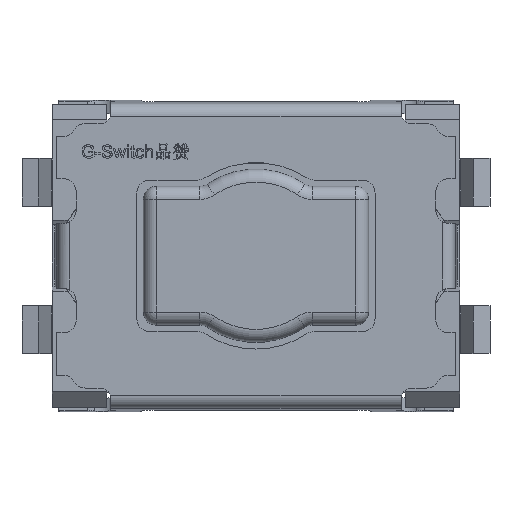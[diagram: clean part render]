
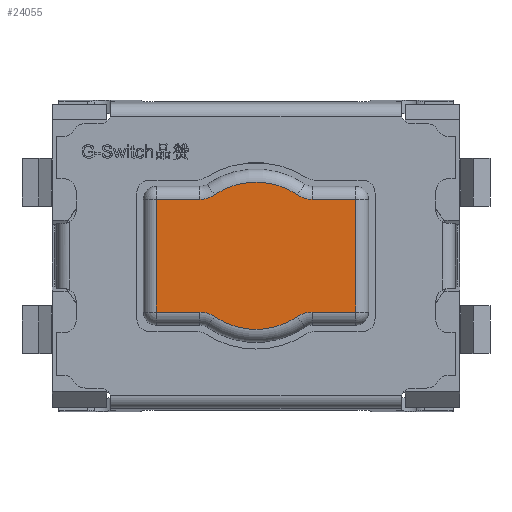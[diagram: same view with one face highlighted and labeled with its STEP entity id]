
A CAD part, top view. The second image highlights one B-rep face of the part: STEP entity #24055.
In plain terms, the highlighted planar face has unit normal (0, 0, 1).
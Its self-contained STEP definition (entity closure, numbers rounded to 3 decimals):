
#1377 = DIRECTION ( 'NONE',  ( 1., 0., 0. ) ) ;
#1526 = DIRECTION ( 'NONE',  ( 0., 0., 1. ) ) ;
#1781 = CARTESIAN_POINT ( 'NONE',  ( 977.92, 796.79, 1. ) ) ;
#1808 = CIRCLE ( 'NONE', #16150, 0.3 ) ;
#2281 = VECTOR ( 'NONE', #2581, 1000. ) ;
#2443 = VERTEX_POINT ( 'NONE', #10665 ) ;
#2581 = DIRECTION ( 'NONE',  ( 1., 0., 0. ) ) ;
#2994 = CIRCLE ( 'NONE', #22262, 0.3 ) ;
#3170 = CARTESIAN_POINT ( 'NONE',  ( 977.751, 796.737, 1. ) ) ;
#3252 = EDGE_CURVE ( 'NONE', #19916, #9051, #9254, .T. ) ;
#3416 = LINE ( 'NONE', #13038, #10738 ) ;
#3738 = EDGE_CURVE ( 'NONE', #17424, #7193, #1808, .T. ) ;
#4107 = CARTESIAN_POINT ( 'NONE',  ( 977.249, 795.437, 1. ) ) ;
#5039 = VERTEX_POINT ( 'NONE', #14301 ) ;
#5555 = AXIS2_PLACEMENT_3D ( 'NONE', #7544, #1526, #15370 ) ;
#5562 = DIRECTION ( 'NONE',  ( 0., 0., 1. ) ) ;
#5604 = AXIS2_PLACEMENT_3D ( 'NONE', #7269, #14846, #20990 ) ;
#5953 = LINE ( 'NONE', #17122, #19619 ) ;
#6273 = EDGE_CURVE ( 'NONE', #16127, #24001, #20419, .T. ) ;
#6338 = VECTOR ( 'NONE', #17702, 1000. ) ;
#6386 = CARTESIAN_POINT ( 'NONE',  ( 978.399, 796.087, 1. ) ) ;
#6680 = ORIENTED_EDGE ( 'NONE', *, *, #7052, .T. ) ;
#7052 = EDGE_CURVE ( 'NONE', #13191, #7193, #17972, .T. ) ;
#7127 = CARTESIAN_POINT ( 'NONE',  ( 978.878, 796.79, 1. ) ) ;
#7192 = VECTOR ( 'NONE', #24992, 1000. ) ;
#7193 = VERTEX_POINT ( 'NONE', #8864 ) ;
#7269 = CARTESIAN_POINT ( 'NONE',  ( 977.751, 797.037, 1. ) ) ;
#7544 = CARTESIAN_POINT ( 'NONE',  ( 978.399, 796.087, 1. ) ) ;
#7853 = CARTESIAN_POINT ( 'NONE',  ( 977.249, 795.437, 1. ) ) ;
#8445 = LINE ( 'NONE', #18437, #22401 ) ;
#8864 = CARTESIAN_POINT ( 'NONE',  ( 977.751, 795.437, 1. ) ) ;
#8970 = CARTESIAN_POINT ( 'NONE',  ( 979.047, 797.037, 1. ) ) ;
#9051 = VERTEX_POINT ( 'NONE', #12334 ) ;
#9254 = CIRCLE ( 'NONE', #23582, 0.3 ) ;
#9282 = DIRECTION ( 'NONE',  ( 0.564, -0.826, 0. ) ) ;
#9354 = CARTESIAN_POINT ( 'NONE',  ( 979.549, 795.437, 1. ) ) ;
#9404 = EDGE_CURVE ( 'NONE', #2443, #9051, #8445, .T. ) ;
#9490 = VERTEX_POINT ( 'NONE', #11961 ) ;
#9672 = CIRCLE ( 'NONE', #24013, 0.85 ) ;
#10177 = DIRECTION ( 'NONE',  ( 0., 0., 1. ) ) ;
#10305 = DIRECTION ( 'NONE',  ( 0.564, 0.826, 0. ) ) ;
#10665 = CARTESIAN_POINT ( 'NONE',  ( 979.549, 796.737, 1. ) ) ;
#10738 = VECTOR ( 'NONE', #1377, 1000. ) ;
#10799 = EDGE_CURVE ( 'NONE', #9490, #20121, #2994, .T. ) ;
#11265 = LINE ( 'NONE', #9354, #7192 ) ;
#11321 = DIRECTION ( 'NONE',  ( 0., 0., -1. ) ) ;
#11499 = EDGE_CURVE ( 'NONE', #9490, #5039, #3416, .T. ) ;
#11961 = CARTESIAN_POINT ( 'NONE',  ( 979.047, 795.437, 1. ) ) ;
#12077 = ORIENTED_EDGE ( 'NONE', *, *, #12811, .T. ) ;
#12183 = LINE ( 'NONE', #14108, #6338 ) ;
#12281 = DIRECTION ( 'NONE',  ( 0., 0., -1. ) ) ;
#12334 = CARTESIAN_POINT ( 'NONE',  ( 979.047, 796.737, 1. ) ) ;
#12408 = DIRECTION ( 'NONE',  ( -1., 0., 0. ) ) ;
#12811 = EDGE_CURVE ( 'NONE', #16127, #13168, #5953, .T. ) ;
#13038 = CARTESIAN_POINT ( 'NONE',  ( 979.047, 795.437, 1. ) ) ;
#13168 = VERTEX_POINT ( 'NONE', #15809 ) ;
#13191 = VERTEX_POINT ( 'NONE', #7853 ) ;
#13881 = CARTESIAN_POINT ( 'NONE',  ( 977.751, 795.137, 1. ) ) ;
#14108 = CARTESIAN_POINT ( 'NONE',  ( 977.249, 796.737, 1. ) ) ;
#14301 = CARTESIAN_POINT ( 'NONE',  ( 979.549, 795.437, 1. ) ) ;
#14846 = DIRECTION ( 'NONE',  ( 0., 0., 1. ) ) ;
#15286 = EDGE_LOOP ( 'NONE', ( #18856, #20960, #21631, #12077, #15965, #6680, #23744, #17677, #18595, #18765, #20210, #24995 ) ) ;
#15370 = DIRECTION ( 'NONE',  ( 1., 0., 0. ) ) ;
#15565 = CARTESIAN_POINT ( 'NONE',  ( 979.047, 795.137, 1. ) ) ;
#15809 = CARTESIAN_POINT ( 'NONE',  ( 977.249, 796.737, 1. ) ) ;
#15965 = ORIENTED_EDGE ( 'NONE', *, *, #22685, .T. ) ;
#16127 = VERTEX_POINT ( 'NONE', #3170 ) ;
#16150 = AXIS2_PLACEMENT_3D ( 'NONE', #13881, #10177, #10305 ) ;
#16920 = PLANE ( 'NONE',  #5555 ) ;
#17122 = CARTESIAN_POINT ( 'NONE',  ( 977.751, 796.737, 1. ) ) ;
#17285 = DIRECTION ( 'NONE',  ( -0.564, -0.826, 0. ) ) ;
#17347 = CARTESIAN_POINT ( 'NONE',  ( 978.399, 796.087, 1. ) ) ;
#17424 = VERTEX_POINT ( 'NONE', #18791 ) ;
#17501 = DIRECTION ( 'NONE',  ( -1., 0., 0. ) ) ;
#17677 = ORIENTED_EDGE ( 'NONE', *, *, #20339, .F. ) ;
#17702 = DIRECTION ( 'NONE',  ( 0., -1., 0. ) ) ;
#17972 = LINE ( 'NONE', #4107, #2281 ) ;
#18437 = CARTESIAN_POINT ( 'NONE',  ( 979.549, 796.737, 1. ) ) ;
#18595 = ORIENTED_EDGE ( 'NONE', *, *, #10799, .F. ) ;
#18765 = ORIENTED_EDGE ( 'NONE', *, *, #11499, .T. ) ;
#18791 = CARTESIAN_POINT ( 'NONE',  ( 977.92, 795.385, 1. ) ) ;
#18856 = ORIENTED_EDGE ( 'NONE', *, *, #3252, .F. ) ;
#19418 = DIRECTION ( 'NONE',  ( 0., 1., 0. ) ) ;
#19619 = VECTOR ( 'NONE', #17501, 1000. ) ;
#19916 = VERTEX_POINT ( 'NONE', #7127 ) ;
#20121 = VERTEX_POINT ( 'NONE', #23025 ) ;
#20210 = ORIENTED_EDGE ( 'NONE', *, *, #24142, .T. ) ;
#20339 = EDGE_CURVE ( 'NONE', #20121, #17424, #22208, .T. ) ;
#20419 = CIRCLE ( 'NONE', #5604, 0.3 ) ;
#20960 = ORIENTED_EDGE ( 'NONE', *, *, #24382, .F. ) ;
#20990 = DIRECTION ( 'NONE',  ( 0., -1., 0. ) ) ;
#21631 = ORIENTED_EDGE ( 'NONE', *, *, #6273, .F. ) ;
#22029 = DIRECTION ( 'NONE',  ( -0.564, 0.826, 0. ) ) ;
#22208 = CIRCLE ( 'NONE', #23828, 0.85 ) ;
#22262 = AXIS2_PLACEMENT_3D ( 'NONE', #15565, #5562, #19418 ) ;
#22401 = VECTOR ( 'NONE', #12408, 1000. ) ;
#22685 = EDGE_CURVE ( 'NONE', #13168, #13191, #12183, .T. ) ;
#23025 = CARTESIAN_POINT ( 'NONE',  ( 978.878, 795.385, 1. ) ) ;
#23312 = DIRECTION ( 'NONE',  ( 0., 0., 1. ) ) ;
#23582 = AXIS2_PLACEMENT_3D ( 'NONE', #8970, #23312, #17285 ) ;
#23744 = ORIENTED_EDGE ( 'NONE', *, *, #3738, .F. ) ;
#23828 = AXIS2_PLACEMENT_3D ( 'NONE', #17347, #11321, #9282 ) ;
#24001 = VERTEX_POINT ( 'NONE', #1781 ) ;
#24013 = AXIS2_PLACEMENT_3D ( 'NONE', #6386, #12281, #22029 ) ;
#24055 = ADVANCED_FACE ( 'NONE', ( #25241 ), #16920, .T. ) ;
#24142 = EDGE_CURVE ( 'NONE', #5039, #2443, #11265, .T. ) ;
#24382 = EDGE_CURVE ( 'NONE', #24001, #19916, #9672, .T. ) ;
#24992 = DIRECTION ( 'NONE',  ( 0., 1., 0. ) ) ;
#24995 = ORIENTED_EDGE ( 'NONE', *, *, #9404, .T. ) ;
#25241 = FACE_OUTER_BOUND ( 'NONE', #15286, .T. ) ;
